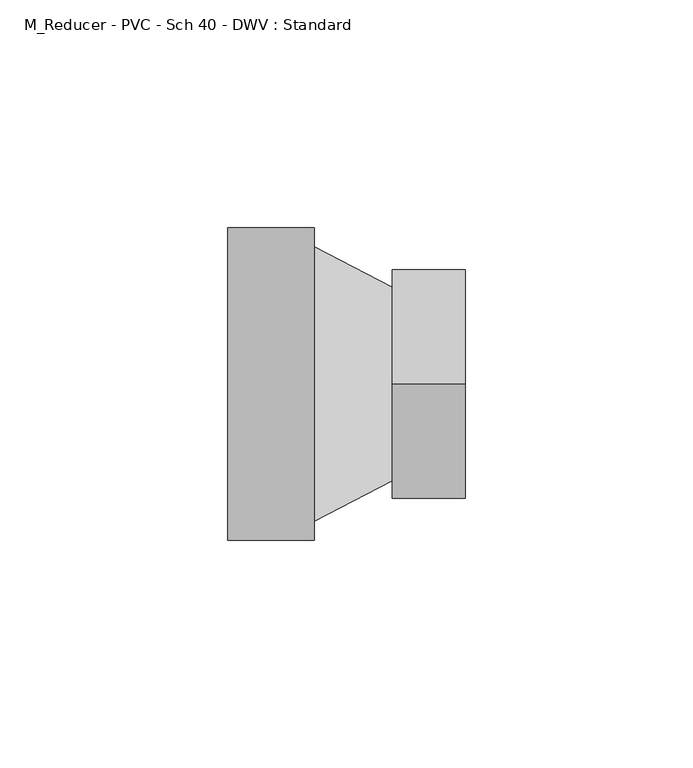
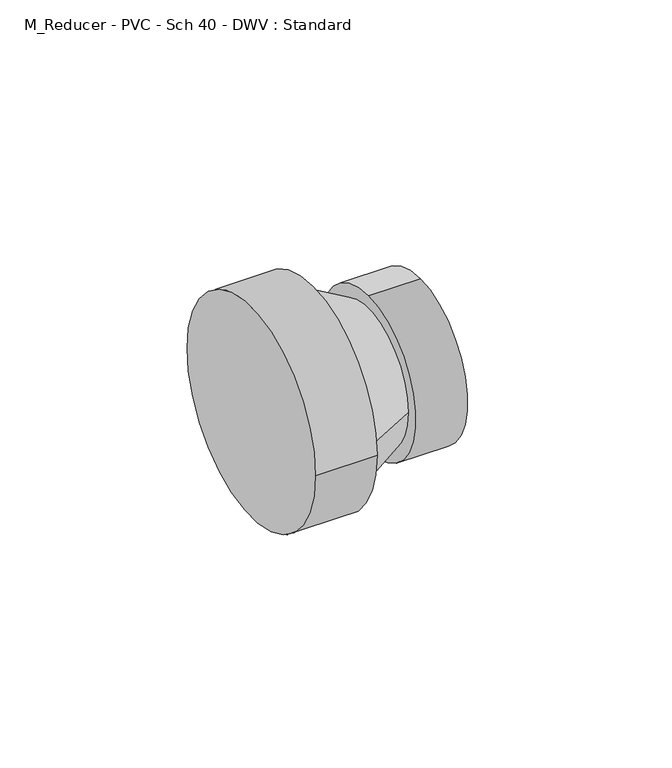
"""IFC4 building model written with IfcOpenShell, lengths in millimetres: pipe fitting geometry, M_Reducer - PVC - Sch 40 - DWV : Standard."""

from ifc_helpers import new_model, si_unit, frame, origin, place, context, project, spatial, circle_curve, source, transform, mapped, element, save
from ifc_brep_helpers import plane_surface, cylinder_surface, spline_surface, advanced_brep


def m_reducer_pvc_sch_40_dwv_standard_7e12a7c1(model_context):
    return source(origin(), model_context, "Body", "AdvancedBrep", [
        advanced_brep(
        [(0.0, -34.3154, 0.0), (0.0, 34.3154, 0.0), (19.05, -34.3154, 0.0), (19.05, 34.3154, 0.0), (19.05, 30.1625, 0.0), (19.05, -30.1625, 0.0), (36.1560938, 21.2046789, 0.0109589), (36.1560938, -21.2034461, 0.0109589), (36.1560938, 0.0006164, 25.2780683), (36.1560938, 0.0006164, -25.2561505), (52.1560938, 0.0006164, 25.2780683), (52.1560938, 0.0006164, -25.2561505)],
        [
            (0, 1, circle_curve(frame((0.0, 0.0, 0.0), z_axis=(-1.0, 0.0, 0.0), x_axis=(0.0, 1.0, 0.0)), 34.3154)),
            (1, 0, circle_curve(frame((0.0, 0.0, 0.0), z_axis=(-1.0, 0.0, 0.0), x_axis=(0.0, 1.0, 0.0)), 34.3154)),
            (2, 3, circle_curve(frame((19.05, 0.0, 0.0), z_axis=(1.0, 0.0, 0.0), x_axis=(0.0, 1.0, 0.0)), 34.3154)),
            (3, 2, circle_curve(frame((19.05, 0.0, 0.0), z_axis=(1.0, 0.0, 0.0), x_axis=(0.0, 1.0, 0.0)), 34.3154)),
            (4, 5, circle_curve(frame((19.05, 0.0, 0.0), z_axis=(-1.0, 0.0, 0.0), x_axis=(0.0, 1.0, 0.0)), 30.1625)),
            (5, 4, circle_curve(frame((19.05, 0.0, 0.0), z_axis=(-1.0, 0.0, 0.0), x_axis=(0.0, 1.0, 0.0)), 30.1625)),
            (0, 2),
            (3, 1),
            (4, 6),
            (6, 7, circle_curve(frame((36.1560938, 0.0006164, 0.0109589), z_axis=(-1.0, 0.0, 0.0), x_axis=(0.0, 1.0, 0.0)), 21.2040625)),
            (7, 5),
            (7, 6, circle_curve(frame((36.1560938, 0.0006164, 0.0109589), z_axis=(-1.0, 0.0, 0.0), x_axis=(0.0, 1.0, 0.0)), 21.2040625)),
            (8, 9, circle_curve(frame((36.1560938, 0.0006164, 0.0109589), z_axis=(-1.0, 0.0, 0.0), x_axis=(0.0, 0.0, -1.0)), 25.2671094)),
            (9, 8, circle_curve(frame((36.1560938, 0.0006164, 0.0109589), z_axis=(-1.0, 0.0, 0.0), x_axis=(0.0, 0.0, -1.0)), 25.2671094)),
            (10, 11, circle_curve(frame((52.1560938, 0.0006164, 0.0109589), z_axis=(1.0, 0.0, 0.0), x_axis=(0.0, 0.0, -1.0)), 25.2671094)),
            (11, 10, circle_curve(frame((52.1560938, 0.0006164, 0.0109589), z_axis=(1.0, 0.0, 0.0), x_axis=(0.0, 0.0, -1.0)), 25.2671094)),
            (8, 10),
            (11, 9),
        ],
        [
            plane_surface(frame((0.0, 0.0, 0.0), z_axis=(-1.0, 0.0, 0.0), x_axis=(0.0, 0.0, 1.0))),
            plane_surface(frame((19.05, 0.0, 0.0), z_axis=(1.0, 0.0, 0.0), x_axis=(0.0, 0.0, 1.0))),
            cylinder_surface(frame((0.0, 0.0, 0.0), z_axis=(-1.0, 0.0, 0.0), x_axis=(0.0, 1.0, 0.0)), 34.3154),
            spline_surface(2, 1, [[(19.05, -30.1625, 0.0), (36.1560938, -21.2034461, 0.0109589)], [(19.05, -30.1625, -30.1625), (36.1560938, -21.2034461, -21.1931036)], [(19.05, 0.0, -30.1625), (36.1560938, 0.0006164, -21.1931036)], [(19.05, 30.1625, -30.1625), (36.1560938, 21.204678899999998, -21.1931036)], [(19.05, 30.1625, 0.0), (36.1560938, 21.2046789, 0.0109589)]], [3, 2, 3], [2, 2], [0.0, 1.0, 2.0], [0.0, 1.0], weights=[[1.0, 1.0], [0.7071067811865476, 0.7071067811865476], [1.0, 1.0], [0.7071067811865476, 0.7071067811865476], [1.0, 1.0]]),
            spline_surface(2, 1, [[(19.05, 30.1625, 0.0), (36.1560938, 21.2046789, 0.0109589)], [(19.05, 30.1625, 30.1625), (36.1560938, 21.2046789, 21.2150214)], [(19.05, 0.0, 30.1625), (36.1560938, 0.0006164, 21.2150214)], [(19.05, -30.1625, 30.1625), (36.1560938, -21.203446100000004, 21.2150214)], [(19.05, -30.1625, 0.0), (36.1560938, -21.2034461, 0.0109589)]], [3, 2, 3], [2, 2], [0.0, 1.0, 2.0], [0.0, 1.0], weights=[[1.0, 1.0], [0.7071067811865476, 0.7071067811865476], [1.0, 1.0], [0.7071067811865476, 0.7071067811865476], [1.0, 1.0]]),
            plane_surface(frame((36.1560938, 0.0006164, 0.0109589), z_axis=(-1.0, 0.0, 0.0), x_axis=(0.0, 1.0, 0.0))),
            plane_surface(frame((52.1560938, 0.0006164, 0.0109589), z_axis=(1.0, 0.0, 0.0), x_axis=(0.0, 1.0, 0.0))),
            cylinder_surface(frame((36.1560938, 0.0006164, 0.0109589), z_axis=(-1.0, 0.0, 0.0), x_axis=(0.0, 0.0, -1.0)), 25.2671094),
        ],
        [
            (0, [[1, 2]]),
            (1, [[3, 4], [5, 6]]),
            (2, [[-1, 7, -4, 8]]),
            (2, [[-2, -8, -3, -7]]),
            (3, [[9, 10, 11, -5]]),
            (4, [[-9, -6, -11, 12]]),
            (5, [[13, 14], [-10, -12]]),
            (6, [[15, 16]]),
            (7, [[-13, 17, -16, 18]]),
            (7, [[-14, -18, -15, -17]]),
        ],
    ),
    ])


if __name__ == "__main__":
    model = new_model("IFC4")
    model_context = context("Model", 3, world=origin())
    ifc_project = project(units=[si_unit("LENGTHUNIT", "METRE", prefix="MILLI")], contexts=[model_context])
    site = spatial("IfcSite", under=ifc_project)
    building = spatial("IfcBuilding", under=site)
    placement = place(None, origin())
    m_reducer_pvc_sch_40_dwv_standard_shape = m_reducer_pvc_sch_40_dwv_standard_7e12a7c1(model_context)
    element("IfcPipeFitting", 1, ObjectType="M_Reducer - PVC - Sch 40 - DWV : Standard", at=placement, inside=building, context=model_context, shape_type="MappedRepresentation", body=[
        mapped(m_reducer_pvc_sch_40_dwv_standard_shape, transform((0.0, 0.0, 0.0), x_axis=(1.0, 0.0, 0.0), y_axis=(0.0, 1.0, 0.0), z_axis=(0.0, 0.0, 1.0))),
    ])
    save(model, "model.ifc")
